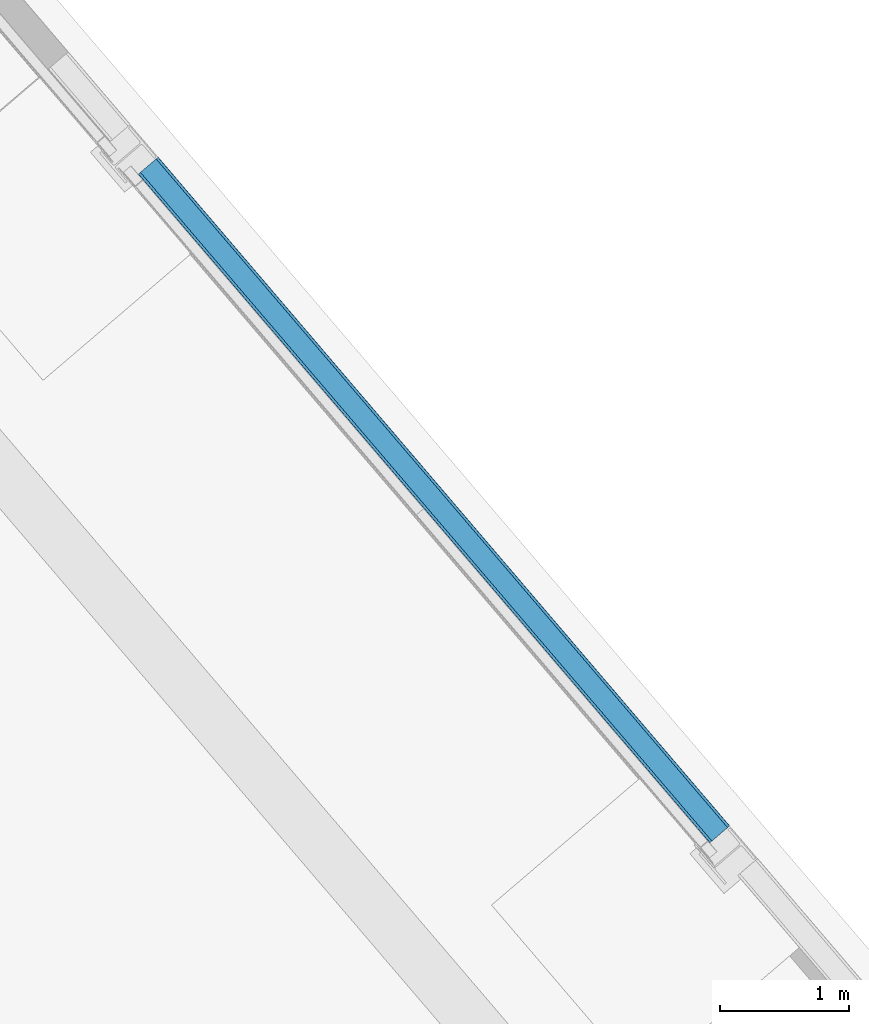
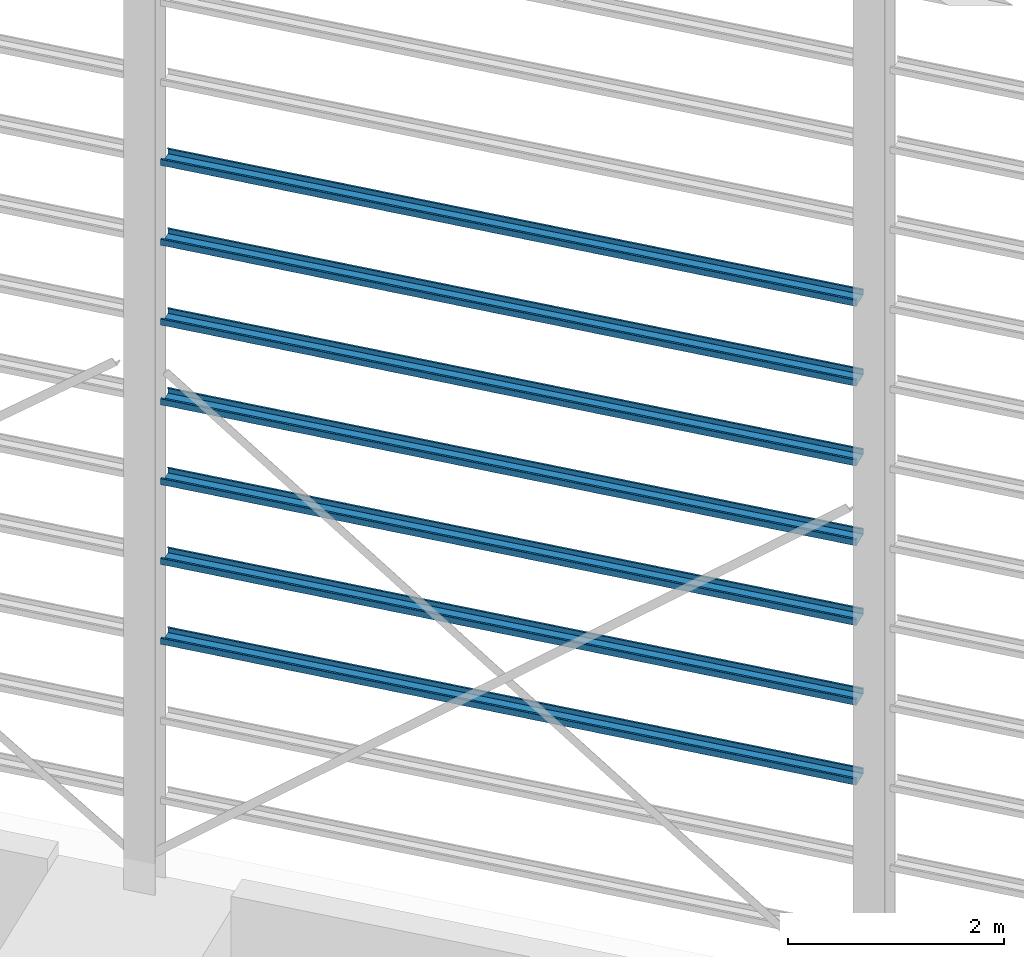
# One storey, part 32 of 41: 7 beams, 1 element without a shape of its own.
"""IFC2X3 building model written with IfcOpenShell, lengths in millimetres."""

from ifc_helpers import new_model, entity, si_unit, converted_unit, derived_unit, direction, frame, frame_2d, origin, place, context, subcontext, project, spatial, polyline, circle_curve, parameter, trimmed, segment, composite_curve, outline, extrude, material, type_object, element, aggregate, save


model = new_model("IFC2X3")

# Units and contexts
model_context = context("Model", 3, precision=0.01, world=origin(), true_north=direction((6.123031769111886e-17, 1.0)))
body_context = subcontext(model_context, "Body", "Model", "MODEL_VIEW")
ifc_project = project(units=[si_unit("LENGTHUNIT", "METRE", prefix="MILLI"), si_unit("AREAUNIT", "SQUARE_METRE"), si_unit("VOLUMEUNIT", "CUBIC_METRE"), converted_unit("PLANEANGLEUNIT", "DEGREE", entity("IfcRatioMeasure", 0.017453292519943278), si_unit("PLANEANGLEUNIT", "RADIAN"), dimensions=[0, 0, 0, 0, 0, 0, 0]), si_unit("MASSUNIT", "GRAM", prefix="KILO"), derived_unit("MASSDENSITYUNIT", [(si_unit("MASSUNIT", "GRAM", prefix="KILO"), 1), (si_unit("LENGTHUNIT", "METRE"), -3)]), derived_unit("MOMENTOFINERTIAUNIT", [(si_unit("LENGTHUNIT", "METRE"), 4)]), si_unit("TIMEUNIT", "SECOND"), si_unit("FREQUENCYUNIT", "HERTZ"), si_unit("THERMODYNAMICTEMPERATUREUNIT", "DEGREE_CELSIUS"), derived_unit("THERMALTRANSMITTANCEUNIT", [(si_unit("MASSUNIT", "GRAM", prefix="KILO"), 1), (si_unit("THERMODYNAMICTEMPERATUREUNIT", "KELVIN"), -1), (si_unit("TIMEUNIT", "SECOND"), -3)]), derived_unit("VOLUMETRICFLOWRATEUNIT", [(si_unit("LENGTHUNIT", "METRE"), 3), (si_unit("TIMEUNIT", "SECOND"), -1)]), derived_unit("MASSFLOWRATEUNIT", [(si_unit("MASSUNIT", "GRAM", prefix="KILO"), 1), (si_unit("TIMEUNIT", "SECOND"), -1)]), derived_unit("ROTATIONALFREQUENCYUNIT", [(si_unit("TIMEUNIT", "SECOND"), -1)]), si_unit("ELECTRICCURRENTUNIT", "AMPERE"), si_unit("ELECTRICVOLTAGEUNIT", "VOLT"), si_unit("POWERUNIT", "WATT"), si_unit("FORCEUNIT", "NEWTON", prefix="KILO"), si_unit("ILLUMINANCEUNIT", "LUX"), si_unit("LUMINOUSFLUXUNIT", "LUMEN"), si_unit("LUMINOUSINTENSITYUNIT", "CANDELA"), derived_unit("USERDEFINED", [(si_unit("MASSUNIT", "GRAM", prefix="KILO"), -1), (si_unit("LENGTHUNIT", "METRE"), -2), (si_unit("TIMEUNIT", "SECOND"), 3), (si_unit("LUMINOUSFLUXUNIT", "LUMEN"), 1)]), derived_unit("SOUNDPOWERUNIT", [(si_unit("MASSUNIT", "GRAM", prefix="KILO"), 1), (si_unit("LENGTHUNIT", "METRE"), 2), (si_unit("TIMEUNIT", "SECOND"), -3)]), derived_unit("LINEARVELOCITYUNIT", [(si_unit("LENGTHUNIT", "METRE"), 1), (si_unit("TIMEUNIT", "SECOND"), -1)]), si_unit("PRESSUREUNIT", "PASCAL"), derived_unit("USERDEFINED", [(si_unit("LENGTHUNIT", "METRE"), -2), (si_unit("MASSUNIT", "GRAM", prefix="KILO"), 1), (si_unit("TIMEUNIT", "SECOND"), -2)]), derived_unit("LINEARFORCEUNIT", [(si_unit("MASSUNIT", "GRAM", prefix="KILO"), 1), (si_unit("LENGTHUNIT", "METRE"), 1), (si_unit("TIMEUNIT", "SECOND"), -2), (si_unit("LENGTHUNIT", "METRE"), -1)]), derived_unit("PLANARFORCEUNIT", [(si_unit("MASSUNIT", "GRAM", prefix="KILO"), 1), (si_unit("LENGTHUNIT", "METRE"), 1), (si_unit("TIMEUNIT", "SECOND"), -2), (si_unit("LENGTHUNIT", "METRE"), -2)])], contexts=[model_context])

# Site, building, storey
site_placement = place(None, frame((962.4174930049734, -6014.433753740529, 0.0), z_axis=(0.0, 0.0, 1.0), x_axis=(0.7601792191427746, 0.649713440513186, 0.0)))
site = spatial("IfcSite", under=ifc_project, at=site_placement, Name="Default", CompositionType="ELEMENT")
building_placement = place(site_placement, origin())
building = spatial("IfcBuilding", under=site, at=building_placement, CompositionType="ELEMENT")
storey_placement = place(building_placement, origin())
storey = spatial("IfcBuildingStorey", under=building, at=storey_placement, Name="Datum", CompositionType="ELEMENT", Elevation=0.0)

# Assembly, beams
assembly_placement = place(building_placement, origin())
assembly = element("IfcElementAssembly", 1, at=assembly_placement, inside=storey, Name="Structural Beam System:Structural Beam System 1", ObjectType="Structural Beam System:Structural Beam System 1", AssemblyPlace="NOTDEFINED", PredefinedType="BEAM_GRID")
ifc_material = material(Name="Metal - Light Gauge")
beam_type = type_object("IfcBeamType", Name="ADSK_AUS_Light Gauge-Joists:C20015", PredefinedType="NOTDEFINED")
beam_1_placement = place(building_placement, frame((185748.56020470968, -18217.31558212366, 7805.616355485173), z_axis=(0.0, 0.0, 1.0), x_axis=(0.0, 1.0, 0.0)))
beam_1 = element("IfcBeam", 2, at=beam_1_placement, type_object=beam_type, material=ifc_material, Name="ADSK_AUS_Light Gauge-Joists:C20015", ObjectType="ADSK_AUS_Light Gauge-Joists:C20015", context=body_context, shape_type="SweptSolid", body=[
    extrude(outline(composite_curve([segment(polyline([(-25.691849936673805, -101.50000000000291), (39.49184993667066, -101.50000000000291)]), True, "CONTINUOUS"), segment(trimmed(circle_curve(frame_2d((39.491849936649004, -98.8418499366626), x_axis=(0.0, -1.0)), 2.658150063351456), [parameter(0.0)], [parameter(89.99999999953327)], True, "PARAMETER"), True, "CONTINUOUS"), segment(polyline([(42.15000000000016, -98.8418499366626), (42.14999999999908, 98.84184993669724)]), True, "CONTINUOUS"), segment(trimmed(circle_curve(frame_2d((39.491849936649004, 98.84184993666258), x_axis=(1.0, 0.0)), 2.658150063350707), [parameter(0.0)], [parameter(89.99999999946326)], True, "PARAMETER"), True, "CONTINUOUS"), segment(polyline([(39.491849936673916, 101.50000000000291), (-25.691849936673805, 101.50000000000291)]), True, "CONTINUOUS"), segment(trimmed(circle_curve(frame_2d((-25.691849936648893, 98.84184993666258), x_axis=(0.0, 1.0)), 2.658150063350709), [parameter(0.0)], [parameter(89.99999999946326)], True, "PARAMETER"), True, "CONTINUOUS"), segment(polyline([(-28.35000000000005, 98.84184993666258), (-28.35000000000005, 80.0)]), True, "CONTINUOUS"), segment(polyline([(-28.35000000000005, 80.0), (-26.850000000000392, 80.0)]), True, "CONTINUOUS"), segment(polyline([(-26.850000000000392, 80.0), (-26.850000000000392, 98.42934993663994)]), True, "CONTINUOUS"), segment(trimmed(circle_curve(frame_2d((-25.279349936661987, 98.4293499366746), x_axis=(-1.0, 0.0)), 1.570650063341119), [parameter(270.00000000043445)], [parameter(0.0)], True, "PARAMETER"), False, "CONTINUOUS"), segment(polyline([(-25.279349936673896, 100.0), (39.079349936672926, 100.0)]), True, "CONTINUOUS"), segment(trimmed(circle_curve(frame_2d((39.0793499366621, 98.4293499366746), x_axis=(0.0, 1.0)), 1.570650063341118), [parameter(270.00000000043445)], [parameter(0.0)], True, "PARAMETER"), False, "CONTINUOUS"), segment(polyline([(40.6500000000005, 98.4293499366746), (40.65000000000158, -98.4293499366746)]), True, "CONTINUOUS"), segment(trimmed(circle_curve(frame_2d((39.0793499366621, -98.4293499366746), x_axis=(1.0, 0.0)), 1.570650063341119), [parameter(270.00000000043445)], [parameter(0.0)], True, "PARAMETER"), False, "CONTINUOUS"), segment(polyline([(39.07934993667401, -100.0), (-25.279349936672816, -100.0)]), True, "CONTINUOUS"), segment(trimmed(circle_curve(frame_2d((-25.279349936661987, -98.4293499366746), x_axis=(0.0, -1.0)), 1.570650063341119), [parameter(270.00000000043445)], [parameter(0.0)], True, "PARAMETER"), False, "CONTINUOUS"), segment(polyline([(-26.850000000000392, -98.4293499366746), (-26.850000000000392, -80.0)]), True, "CONTINUOUS"), segment(polyline([(-26.850000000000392, -80.0), (-28.35000000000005, -80.0)]), True, "CONTINUOUS"), segment(polyline([(-28.35000000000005, -80.0), (-28.35000000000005, -98.84184993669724)]), True, "CONTINUOUS"), segment(trimmed(circle_curve(frame_2d((-25.691849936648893, -98.8418499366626), x_axis=(-1.0, 0.0)), 2.6581500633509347), [parameter(0.0)], [parameter(89.99999999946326)], True, "PARAMETER"), True, "CONTINUOUS")], self_intersect=False)), frame((12.943749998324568, -101.50000000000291, 42.15000000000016), z_axis=(1.0, 0.0, 0.0), x_axis=(0.0, 0.0, -1.0)), (0.0, 0.0, 1.0), 6816.000000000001),
])
beam_2_placement = place(building_placement, frame((185748.56020470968, -18217.31558212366, 6905.616355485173), z_axis=(0.0, 0.0, 1.0), x_axis=(0.0, 1.0, 0.0)))
beam_2 = element("IfcBeam", 3, at=beam_2_placement, type_object=beam_type, material=ifc_material, Name="ADSK_AUS_Light Gauge-Joists:C20015", ObjectType="ADSK_AUS_Light Gauge-Joists:C20015", context=body_context, shape_type="SweptSolid", body=[
    extrude(outline(composite_curve([segment(polyline([(-25.691849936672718, -101.50000000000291), (39.49184993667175, -101.50000000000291)]), True, "CONTINUOUS"), segment(trimmed(circle_curve(frame_2d((39.49184993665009, -98.8418499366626), x_axis=(0.0, -1.0)), 2.658150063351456), [parameter(0.0)], [parameter(89.99999999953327)], True, "PARAMETER"), True, "CONTINUOUS"), segment(polyline([(42.15000000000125, -98.8418499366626), (42.15000000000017, 98.84184993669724)]), True, "CONTINUOUS"), segment(trimmed(circle_curve(frame_2d((39.49184993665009, 98.84184993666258), x_axis=(1.0, 0.0)), 2.658150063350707), [parameter(0.0)], [parameter(89.99999999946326)], True, "PARAMETER"), True, "CONTINUOUS"), segment(polyline([(39.491849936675, 101.50000000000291), (-25.691849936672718, 101.50000000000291)]), True, "CONTINUOUS"), segment(trimmed(circle_curve(frame_2d((-25.691849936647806, 98.84184993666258), x_axis=(0.0, 1.0)), 2.658150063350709), [parameter(0.0)], [parameter(89.99999999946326)], True, "PARAMETER"), True, "CONTINUOUS"), segment(polyline([(-28.349999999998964, 98.84184993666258), (-28.349999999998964, 80.0)]), True, "CONTINUOUS"), segment(polyline([(-28.349999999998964, 80.0), (-26.849999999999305, 80.0)]), True, "CONTINUOUS"), segment(polyline([(-26.849999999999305, 80.0), (-26.849999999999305, 98.42934993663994)]), True, "CONTINUOUS"), segment(trimmed(circle_curve(frame_2d((-25.2793499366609, 98.4293499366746), x_axis=(-1.0, 0.0)), 1.570650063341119), [parameter(270.00000000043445)], [parameter(0.0)], True, "PARAMETER"), False, "CONTINUOUS"), segment(polyline([(-25.27934993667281, 100.0), (39.079349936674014, 100.0)]), True, "CONTINUOUS"), segment(trimmed(circle_curve(frame_2d((39.079349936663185, 98.4293499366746), x_axis=(0.0, 1.0)), 1.570650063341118), [parameter(270.00000000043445)], [parameter(0.0)], True, "PARAMETER"), False, "CONTINUOUS"), segment(polyline([(40.65000000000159, 98.4293499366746), (40.65000000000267, -98.4293499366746)]), True, "CONTINUOUS"), segment(trimmed(circle_curve(frame_2d((39.079349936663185, -98.4293499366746), x_axis=(1.0, 0.0)), 1.570650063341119), [parameter(270.00000000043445)], [parameter(0.0)], True, "PARAMETER"), False, "CONTINUOUS"), segment(polyline([(39.079349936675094, -100.0), (-25.27934993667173, -100.0)]), True, "CONTINUOUS"), segment(trimmed(circle_curve(frame_2d((-25.2793499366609, -98.4293499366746), x_axis=(0.0, -1.0)), 1.570650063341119), [parameter(270.00000000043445)], [parameter(0.0)], True, "PARAMETER"), False, "CONTINUOUS"), segment(polyline([(-26.849999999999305, -98.4293499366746), (-26.849999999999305, -80.0)]), True, "CONTINUOUS"), segment(polyline([(-26.849999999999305, -80.0), (-28.349999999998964, -80.0)]), True, "CONTINUOUS"), segment(polyline([(-28.349999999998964, -80.0), (-28.349999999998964, -98.84184993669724)]), True, "CONTINUOUS"), segment(trimmed(circle_curve(frame_2d((-25.691849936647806, -98.8418499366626), x_axis=(-1.0, 0.0)), 2.6581500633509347), [parameter(0.0)], [parameter(89.99999999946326)], True, "PARAMETER"), True, "CONTINUOUS")], self_intersect=False)), frame((12.943749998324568, -101.50000000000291, 42.15000000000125), z_axis=(1.0, 0.0, 0.0), x_axis=(0.0, 0.0, -1.0)), (0.0, 0.0, 1.0), 6816.000000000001),
])
beam_3_placement = place(building_placement, frame((185748.56020470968, -18217.31558212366, 6005.616355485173), z_axis=(0.0, 0.0, 1.0), x_axis=(0.0, 1.0, 0.0)))
beam_3 = element("IfcBeam", 4, at=beam_3_placement, type_object=beam_type, material=ifc_material, Name="ADSK_AUS_Light Gauge-Joists:C20015", ObjectType="ADSK_AUS_Light Gauge-Joists:C20015", context=body_context, shape_type="SweptSolid", body=[
    extrude(outline(composite_curve([segment(polyline([(-25.691849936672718, -101.50000000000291), (39.49184993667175, -101.50000000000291)]), True, "CONTINUOUS"), segment(trimmed(circle_curve(frame_2d((39.49184993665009, -98.8418499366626), x_axis=(0.0, -1.0)), 2.658150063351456), [parameter(0.0)], [parameter(89.99999999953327)], True, "PARAMETER"), True, "CONTINUOUS"), segment(polyline([(42.15000000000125, -98.8418499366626), (42.15000000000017, 98.84184993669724)]), True, "CONTINUOUS"), segment(trimmed(circle_curve(frame_2d((39.49184993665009, 98.84184993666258), x_axis=(1.0, 0.0)), 2.658150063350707), [parameter(0.0)], [parameter(89.99999999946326)], True, "PARAMETER"), True, "CONTINUOUS"), segment(polyline([(39.491849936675, 101.50000000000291), (-25.691849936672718, 101.50000000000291)]), True, "CONTINUOUS"), segment(trimmed(circle_curve(frame_2d((-25.691849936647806, 98.84184993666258), x_axis=(0.0, 1.0)), 2.658150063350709), [parameter(0.0)], [parameter(89.99999999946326)], True, "PARAMETER"), True, "CONTINUOUS"), segment(polyline([(-28.349999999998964, 98.84184993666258), (-28.349999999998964, 80.0)]), True, "CONTINUOUS"), segment(polyline([(-28.349999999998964, 80.0), (-26.849999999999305, 80.0)]), True, "CONTINUOUS"), segment(polyline([(-26.849999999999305, 80.0), (-26.849999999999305, 98.42934993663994)]), True, "CONTINUOUS"), segment(trimmed(circle_curve(frame_2d((-25.2793499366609, 98.4293499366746), x_axis=(-1.0, 0.0)), 1.570650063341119), [parameter(270.00000000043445)], [parameter(0.0)], True, "PARAMETER"), False, "CONTINUOUS"), segment(polyline([(-25.27934993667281, 100.0), (39.079349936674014, 100.0)]), True, "CONTINUOUS"), segment(trimmed(circle_curve(frame_2d((39.079349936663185, 98.4293499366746), x_axis=(0.0, 1.0)), 1.570650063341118), [parameter(270.00000000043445)], [parameter(0.0)], True, "PARAMETER"), False, "CONTINUOUS"), segment(polyline([(40.65000000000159, 98.4293499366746), (40.65000000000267, -98.4293499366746)]), True, "CONTINUOUS"), segment(trimmed(circle_curve(frame_2d((39.079349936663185, -98.4293499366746), x_axis=(1.0, 0.0)), 1.570650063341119), [parameter(270.00000000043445)], [parameter(0.0)], True, "PARAMETER"), False, "CONTINUOUS"), segment(polyline([(39.079349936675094, -100.0), (-25.27934993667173, -100.0)]), True, "CONTINUOUS"), segment(trimmed(circle_curve(frame_2d((-25.2793499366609, -98.4293499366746), x_axis=(0.0, -1.0)), 1.570650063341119), [parameter(270.00000000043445)], [parameter(0.0)], True, "PARAMETER"), False, "CONTINUOUS"), segment(polyline([(-26.849999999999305, -98.4293499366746), (-26.849999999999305, -80.0)]), True, "CONTINUOUS"), segment(polyline([(-26.849999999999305, -80.0), (-28.349999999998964, -80.0)]), True, "CONTINUOUS"), segment(polyline([(-28.349999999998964, -80.0), (-28.349999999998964, -98.84184993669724)]), True, "CONTINUOUS"), segment(trimmed(circle_curve(frame_2d((-25.691849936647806, -98.8418499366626), x_axis=(-1.0, 0.0)), 2.6581500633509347), [parameter(0.0)], [parameter(89.99999999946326)], True, "PARAMETER"), True, "CONTINUOUS")], self_intersect=False)), frame((12.943749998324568, -101.50000000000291, 42.15000000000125), z_axis=(1.0, 0.0, 0.0), x_axis=(0.0, 0.0, -1.0)), (0.0, 0.0, 1.0), 6816.000000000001),
])
beam_4_placement = place(building_placement, frame((185748.56020470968, -18217.31558212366, 5105.616355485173), z_axis=(0.0, 0.0, 1.0), x_axis=(0.0, 1.0, 0.0)))
beam_4 = element("IfcBeam", 5, at=beam_4_placement, type_object=beam_type, material=ifc_material, Name="ADSK_AUS_Light Gauge-Joists:C20015", ObjectType="ADSK_AUS_Light Gauge-Joists:C20015", context=body_context, shape_type="SweptSolid", body=[
    extrude(outline(composite_curve([segment(polyline([(-25.691849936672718, -101.50000000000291), (39.49184993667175, -101.50000000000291)]), True, "CONTINUOUS"), segment(trimmed(circle_curve(frame_2d((39.49184993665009, -98.8418499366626), x_axis=(0.0, -1.0)), 2.658150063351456), [parameter(0.0)], [parameter(89.99999999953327)], True, "PARAMETER"), True, "CONTINUOUS"), segment(polyline([(42.15000000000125, -98.8418499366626), (42.15000000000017, 98.84184993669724)]), True, "CONTINUOUS"), segment(trimmed(circle_curve(frame_2d((39.49184993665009, 98.84184993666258), x_axis=(1.0, 0.0)), 2.658150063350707), [parameter(0.0)], [parameter(89.99999999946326)], True, "PARAMETER"), True, "CONTINUOUS"), segment(polyline([(39.491849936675, 101.50000000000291), (-25.691849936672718, 101.50000000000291)]), True, "CONTINUOUS"), segment(trimmed(circle_curve(frame_2d((-25.691849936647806, 98.84184993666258), x_axis=(0.0, 1.0)), 2.658150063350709), [parameter(0.0)], [parameter(89.99999999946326)], True, "PARAMETER"), True, "CONTINUOUS"), segment(polyline([(-28.349999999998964, 98.84184993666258), (-28.349999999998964, 80.0)]), True, "CONTINUOUS"), segment(polyline([(-28.349999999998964, 80.0), (-26.849999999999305, 80.0)]), True, "CONTINUOUS"), segment(polyline([(-26.849999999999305, 80.0), (-26.849999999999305, 98.42934993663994)]), True, "CONTINUOUS"), segment(trimmed(circle_curve(frame_2d((-25.2793499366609, 98.4293499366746), x_axis=(-1.0, 0.0)), 1.570650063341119), [parameter(270.00000000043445)], [parameter(0.0)], True, "PARAMETER"), False, "CONTINUOUS"), segment(polyline([(-25.27934993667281, 100.0), (39.079349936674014, 100.0)]), True, "CONTINUOUS"), segment(trimmed(circle_curve(frame_2d((39.079349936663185, 98.4293499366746), x_axis=(0.0, 1.0)), 1.570650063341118), [parameter(270.00000000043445)], [parameter(0.0)], True, "PARAMETER"), False, "CONTINUOUS"), segment(polyline([(40.65000000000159, 98.4293499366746), (40.65000000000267, -98.4293499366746)]), True, "CONTINUOUS"), segment(trimmed(circle_curve(frame_2d((39.079349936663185, -98.4293499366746), x_axis=(1.0, 0.0)), 1.570650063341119), [parameter(270.00000000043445)], [parameter(0.0)], True, "PARAMETER"), False, "CONTINUOUS"), segment(polyline([(39.079349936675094, -100.0), (-25.27934993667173, -100.0)]), True, "CONTINUOUS"), segment(trimmed(circle_curve(frame_2d((-25.2793499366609, -98.4293499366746), x_axis=(0.0, -1.0)), 1.570650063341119), [parameter(270.00000000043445)], [parameter(0.0)], True, "PARAMETER"), False, "CONTINUOUS"), segment(polyline([(-26.849999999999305, -98.4293499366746), (-26.849999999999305, -80.0)]), True, "CONTINUOUS"), segment(polyline([(-26.849999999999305, -80.0), (-28.349999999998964, -80.0)]), True, "CONTINUOUS"), segment(polyline([(-28.349999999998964, -80.0), (-28.349999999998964, -98.84184993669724)]), True, "CONTINUOUS"), segment(trimmed(circle_curve(frame_2d((-25.691849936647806, -98.8418499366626), x_axis=(-1.0, 0.0)), 2.6581500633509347), [parameter(0.0)], [parameter(89.99999999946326)], True, "PARAMETER"), True, "CONTINUOUS")], self_intersect=False)), frame((12.943749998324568, -101.50000000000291, 42.15000000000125), z_axis=(1.0, 0.0, 0.0), x_axis=(0.0, 0.0, -1.0)), (0.0, 0.0, 1.0), 6816.000000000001),
])
beam_5_placement = place(building_placement, frame((185748.56020470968, -18217.31558212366, 4205.616355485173), z_axis=(0.0, 0.0, 1.0), x_axis=(0.0, 1.0, 0.0)))
beam_5 = element("IfcBeam", 6, at=beam_5_placement, type_object=beam_type, material=ifc_material, Name="ADSK_AUS_Light Gauge-Joists:C20015", ObjectType="ADSK_AUS_Light Gauge-Joists:C20015", context=body_context, shape_type="SweptSolid", body=[
    extrude(outline(composite_curve([segment(polyline([(-25.691849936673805, -101.50000000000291), (39.49184993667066, -101.50000000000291)]), True, "CONTINUOUS"), segment(trimmed(circle_curve(frame_2d((39.491849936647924, -98.8418499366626), x_axis=(0.0, -1.0)), 2.6581500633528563), [parameter(0.0)], [parameter(89.99999999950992)], True, "PARAMETER"), True, "CONTINUOUS"), segment(polyline([(42.1500000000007, -98.8418499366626), (42.15000000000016, 98.84184993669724)]), True, "CONTINUOUS"), segment(trimmed(circle_curve(frame_2d((39.491849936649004, 98.84184993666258), x_axis=(1.0, 0.0)), 2.658150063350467), [parameter(0.0)], [parameter(89.99999999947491)], True, "PARAMETER"), True, "CONTINUOUS"), segment(polyline([(39.49184993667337, 101.50000000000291), (-25.691849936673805, 101.50000000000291)]), True, "CONTINUOUS"), segment(trimmed(circle_curve(frame_2d((-25.691849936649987, 98.84184993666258), x_axis=(0.0, 1.0)), 2.6581500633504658), [parameter(0.0)], [parameter(89.99999999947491)], True, "PARAMETER"), True, "CONTINUOUS"), segment(polyline([(-28.35000000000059, 98.84184993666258), (-28.35000000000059, 80.0)]), True, "CONTINUOUS"), segment(polyline([(-28.35000000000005, 80.0), (-26.849999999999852, 80.0)]), True, "CONTINUOUS"), segment(polyline([(-26.849999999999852, 80.0), (-26.849999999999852, 98.42934993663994)]), True, "CONTINUOUS"), segment(trimmed(circle_curve(frame_2d((-25.279349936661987, 98.4293499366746), x_axis=(-1.0, 0.0)), 1.570650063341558), [parameter(270.0000000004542)], [parameter(0.0)], True, "PARAMETER"), False, "CONTINUOUS"), segment(polyline([(-25.279349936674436, 100.0), (39.079349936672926, 100.0)]), True, "CONTINUOUS"), segment(trimmed(circle_curve(frame_2d((39.07934993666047, 98.4293499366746), x_axis=(0.0, 1.0)), 1.57065006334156), [parameter(270.0000000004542)], [parameter(0.0)], True, "PARAMETER"), False, "CONTINUOUS"), segment(polyline([(40.64999999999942, 98.4293499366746), (40.64999999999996, -98.4293499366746)]), True, "CONTINUOUS"), segment(trimmed(circle_curve(frame_2d((39.07934993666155, -98.4293499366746), x_axis=(1.0, 0.0)), 1.5706500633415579), [parameter(270.0000000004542)], [parameter(0.0)], True, "PARAMETER"), False, "CONTINUOUS"), segment(polyline([(39.07934993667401, -100.0), (-25.279349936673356, -100.0)]), True, "CONTINUOUS"), segment(trimmed(circle_curve(frame_2d((-25.279349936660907, -98.4293499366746), x_axis=(0.0, -1.0)), 1.5706500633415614), [parameter(270.0000000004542)], [parameter(0.0)], True, "PARAMETER"), False, "CONTINUOUS"), segment(polyline([(-26.849999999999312, -98.4293499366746), (-26.849999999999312, -80.0)]), True, "CONTINUOUS"), segment(polyline([(-26.849999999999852, -80.0), (-28.35000000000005, -80.0)]), True, "CONTINUOUS"), segment(polyline([(-28.35000000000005, -80.0), (-28.35000000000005, -98.84184993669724)]), True, "CONTINUOUS"), segment(trimmed(circle_curve(frame_2d((-25.691849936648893, -98.8418499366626), x_axis=(-1.0, 0.0)), 2.6581500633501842), [parameter(0.0)], [parameter(89.99999999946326)], True, "PARAMETER"), True, "CONTINUOUS")], self_intersect=False)), frame((12.943749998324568, -101.50000000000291, 42.15000000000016), z_axis=(1.0, 0.0, 0.0), x_axis=(0.0, 0.0, -1.0)), (0.0, 0.0, 1.0), 6816.000000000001),
])
beam_6_placement = place(building_placement, frame((185748.56020470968, -18217.31558212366, 3305.6163554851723), z_axis=(0.0, 0.0, 1.0), x_axis=(0.0, 1.0, 0.0)))
beam_6 = element("IfcBeam", 7, at=beam_6_placement, type_object=beam_type, material=ifc_material, Name="ADSK_AUS_Light Gauge-Joists:C20015", ObjectType="ADSK_AUS_Light Gauge-Joists:C20015", context=body_context, shape_type="SweptSolid", body=[
    extrude(outline(composite_curve([segment(polyline([(-25.691849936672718, -101.50000000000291), (39.49184993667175, -101.50000000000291)]), True, "CONTINUOUS"), segment(trimmed(circle_curve(frame_2d((39.49184993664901, -98.8418499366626), x_axis=(0.0, -1.0)), 2.6581500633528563), [parameter(0.0)], [parameter(89.99999999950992)], True, "PARAMETER"), True, "CONTINUOUS"), segment(polyline([(42.15000000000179, -98.8418499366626), (42.15000000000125, 98.84184993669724)]), True, "CONTINUOUS"), segment(trimmed(circle_curve(frame_2d((39.49184993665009, 98.84184993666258), x_axis=(1.0, 0.0)), 2.658150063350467), [parameter(0.0)], [parameter(89.99999999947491)], True, "PARAMETER"), True, "CONTINUOUS"), segment(polyline([(39.491849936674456, 101.50000000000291), (-25.691849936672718, 101.50000000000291)]), True, "CONTINUOUS"), segment(trimmed(circle_curve(frame_2d((-25.6918499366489, 98.84184993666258), x_axis=(0.0, 1.0)), 2.6581500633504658), [parameter(0.0)], [parameter(89.99999999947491)], True, "PARAMETER"), True, "CONTINUOUS"), segment(polyline([(-28.349999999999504, 98.84184993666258), (-28.349999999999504, 80.0)]), True, "CONTINUOUS"), segment(polyline([(-28.349999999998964, 80.0), (-26.849999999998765, 80.0)]), True, "CONTINUOUS"), segment(polyline([(-26.849999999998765, 80.0), (-26.849999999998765, 98.42934993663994)]), True, "CONTINUOUS"), segment(trimmed(circle_curve(frame_2d((-25.2793499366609, 98.4293499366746), x_axis=(-1.0, 0.0)), 1.570650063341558), [parameter(270.0000000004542)], [parameter(0.0)], True, "PARAMETER"), False, "CONTINUOUS"), segment(polyline([(-25.27934993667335, 100.0), (39.079349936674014, 100.0)]), True, "CONTINUOUS"), segment(trimmed(circle_curve(frame_2d((39.07934993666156, 98.4293499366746), x_axis=(0.0, 1.0)), 1.57065006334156), [parameter(270.0000000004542)], [parameter(0.0)], True, "PARAMETER"), False, "CONTINUOUS"), segment(polyline([(40.65000000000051, 98.4293499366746), (40.65000000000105, -98.4293499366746)]), True, "CONTINUOUS"), segment(trimmed(circle_curve(frame_2d((39.07934993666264, -98.4293499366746), x_axis=(1.0, 0.0)), 1.5706500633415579), [parameter(270.0000000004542)], [parameter(0.0)], True, "PARAMETER"), False, "CONTINUOUS"), segment(polyline([(39.079349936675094, -100.0), (-25.27934993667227, -100.0)]), True, "CONTINUOUS"), segment(trimmed(circle_curve(frame_2d((-25.27934993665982, -98.4293499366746), x_axis=(0.0, -1.0)), 1.5706500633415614), [parameter(270.0000000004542)], [parameter(0.0)], True, "PARAMETER"), False, "CONTINUOUS"), segment(polyline([(-26.849999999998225, -98.4293499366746), (-26.849999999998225, -80.0)]), True, "CONTINUOUS"), segment(polyline([(-26.849999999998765, -80.0), (-28.349999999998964, -80.0)]), True, "CONTINUOUS"), segment(polyline([(-28.349999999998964, -80.0), (-28.349999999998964, -98.84184993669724)]), True, "CONTINUOUS"), segment(trimmed(circle_curve(frame_2d((-25.691849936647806, -98.8418499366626), x_axis=(-1.0, 0.0)), 2.6581500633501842), [parameter(0.0)], [parameter(89.99999999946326)], True, "PARAMETER"), True, "CONTINUOUS")], self_intersect=False)), frame((12.943749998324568, -101.50000000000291, 42.15000000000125), z_axis=(1.0, 0.0, 0.0), x_axis=(0.0, 0.0, -1.0)), (0.0, 0.0, 1.0), 6816.000000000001),
])
beam_7_placement = place(building_placement, frame((185748.56020470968, -18217.31558212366, 2405.6163554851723), z_axis=(0.0, 0.0, 1.0), x_axis=(0.0, 1.0, 0.0)))
beam_7 = element("IfcBeam", 8, at=beam_7_placement, type_object=beam_type, material=ifc_material, Name="ADSK_AUS_Light Gauge-Joists:C20015", ObjectType="ADSK_AUS_Light Gauge-Joists:C20015", context=body_context, shape_type="SweptSolid", body=[
    extrude(outline(composite_curve([segment(polyline([(-25.691849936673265, -101.50000000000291), (39.4918499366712, -101.50000000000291)]), True, "CONTINUOUS"), segment(trimmed(circle_curve(frame_2d((39.491849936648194, -98.8418499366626), x_axis=(0.0, -1.0)), 2.658150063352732), [parameter(0.0)], [parameter(89.99999999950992)], True, "PARAMETER"), True, "CONTINUOUS"), segment(polyline([(42.15000000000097, -98.8418499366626), (42.15000000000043, 98.84184993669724)]), True, "CONTINUOUS"), segment(trimmed(circle_curve(frame_2d((39.491849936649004, 98.84184993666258), x_axis=(1.0, 0.0)), 2.6581500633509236), [parameter(0.0)], [parameter(89.99999999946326)], True, "PARAMETER"), True, "CONTINUOUS"), segment(polyline([(39.49184993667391, 101.50000000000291), (-25.691849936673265, 101.50000000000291)]), True, "CONTINUOUS"), segment(trimmed(circle_curve(frame_2d((-25.691849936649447, 98.84184993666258), x_axis=(0.0, 1.0)), 2.6581500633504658), [parameter(0.0)], [parameter(89.99999999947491)], True, "PARAMETER"), True, "CONTINUOUS"), segment(polyline([(-28.35000000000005, 98.84184993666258), (-28.35000000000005, 80.0)]), True, "CONTINUOUS"), segment(polyline([(-28.34999999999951, 80.0), (-26.849999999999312, 80.0)]), True, "CONTINUOUS"), segment(polyline([(-26.849999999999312, 80.0), (-26.849999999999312, 98.42934993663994)]), True, "CONTINUOUS"), segment(trimmed(circle_curve(frame_2d((-25.279349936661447, 98.4293499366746), x_axis=(-1.0, 0.0)), 1.570650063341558), [parameter(270.0000000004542)], [parameter(0.0)], True, "PARAMETER"), False, "CONTINUOUS"), segment(polyline([(-25.279349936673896, 100.0), (39.07934993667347, 100.0)]), True, "CONTINUOUS"), segment(trimmed(circle_curve(frame_2d((39.07934993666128, 98.4293499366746), x_axis=(0.0, 1.0)), 1.5706500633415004), [parameter(270.00000000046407)], [parameter(0.0)], True, "PARAMETER"), False, "CONTINUOUS"), segment(polyline([(40.6500000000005, 98.4293499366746), (40.65000000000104, -98.4293499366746)]), True, "CONTINUOUS"), segment(trimmed(circle_curve(frame_2d((39.07934993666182, -98.4293499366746), x_axis=(1.0, 0.0)), 1.5706500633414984), [parameter(270.00000000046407)], [parameter(0.0)], True, "PARAMETER"), False, "CONTINUOUS"), segment(polyline([(39.07934993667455, -100.0), (-25.279349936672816, -100.0)]), True, "CONTINUOUS"), segment(trimmed(circle_curve(frame_2d((-25.279349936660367, -98.4293499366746), x_axis=(0.0, -1.0)), 1.5706500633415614), [parameter(270.0000000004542)], [parameter(0.0)], True, "PARAMETER"), False, "CONTINUOUS"), segment(polyline([(-26.849999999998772, -98.4293499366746), (-26.849999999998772, -80.0)]), True, "CONTINUOUS"), segment(polyline([(-26.849999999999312, -80.0), (-28.34999999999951, -80.0)]), True, "CONTINUOUS"), segment(polyline([(-28.34999999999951, -80.0), (-28.34999999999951, -98.84184993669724)]), True, "CONTINUOUS"), segment(trimmed(circle_curve(frame_2d((-25.691849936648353, -98.8418499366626), x_axis=(-1.0, 0.0)), 2.6581500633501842), [parameter(0.0)], [parameter(89.99999999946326)], True, "PARAMETER"), True, "CONTINUOUS")], self_intersect=False)), frame((12.943749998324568, -101.50000000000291, 42.1500000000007), z_axis=(1.0, 0.0, 0.0), x_axis=(0.0, 0.0, -1.0)), (0.0, 0.0, 1.0), 6816.000000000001),
])
aggregate(assembly, [beam_1, beam_2, beam_3, beam_4, beam_5, beam_6, beam_7])

save(model, "model.ifc")
